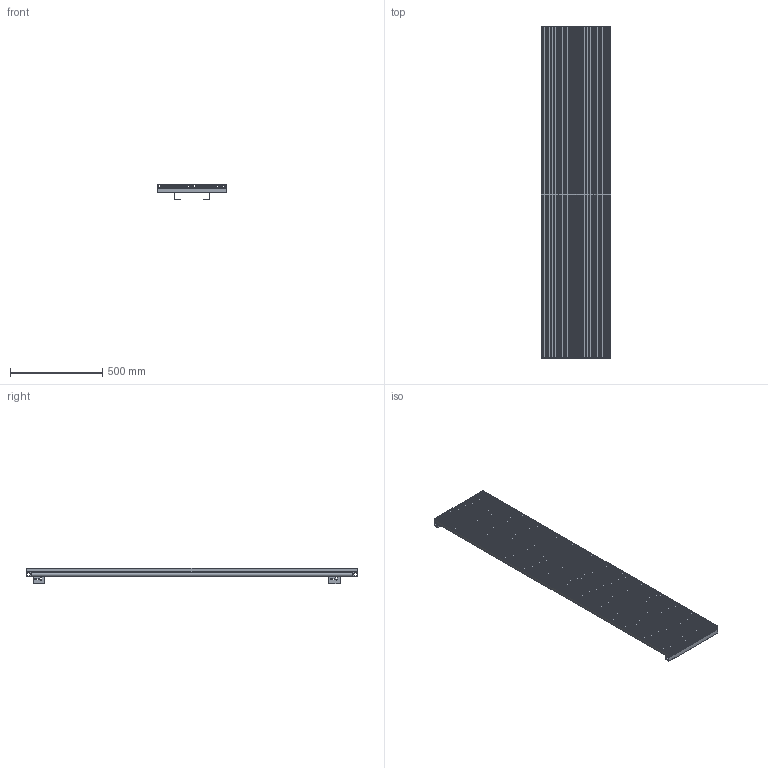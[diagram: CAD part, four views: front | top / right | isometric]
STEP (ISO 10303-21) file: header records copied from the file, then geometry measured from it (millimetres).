
FILE_DESCRIPTION (( 'STEP AP214' ), '1' );
FILE_NAME ('MONZA.STEP', '2020-09-28T12:00:09', ( 'termosan' ), ( '' ), 'SwSTEP 2.0', 'SolidWorks 2009', '' );
FILE_SCHEMA (( 'AUTOMOTIVE_DESIGN' ));
Length unit declared in the file: millimetre
Products named in the file (9): MONZA; YENÝ OMEGA; sac aský-sol_3_2; SAC ASKI SOL; KARE KOL.375; sac aský-sað_3_2; SAC ASKI SAﾐ; MONZA-1800; NEMO KAPAK
Assembly tree (22 placements, depth 3):
  MONZA
    SAC ASKI SOL  x2
      sac aský-sol_3_2
      YENÝ OMEGA
    KARE KOL.375  x2
    SAC ASKI SAﾐ  x2
      sac aský-sað_3_2
      YENÝ OMEGA
    NEMO KAPAK  x8
    MONZA-1800  x4
Bounding box: 375.6 x 1800 x 85.7 mm (x, y, z)
Volume: 4048180.5 mm3; surface area: 4935928.1 mm2
Topology: 22 solids, 22 shells, 1430 faces, 3982 edges, 2612 vertices
Faces by surface type: plane 838, cylinder 528, torus 64
Entity records: 12102 total; most frequent: CARTESIAN_POINT 2414, ORIENTED_EDGE 1972, DIRECTION 1958, EDGE_CURVE 986, LINE 702, VECTOR 702, VERTEX_POINT 652, AXIS2_PLACEMENT_3D 628
